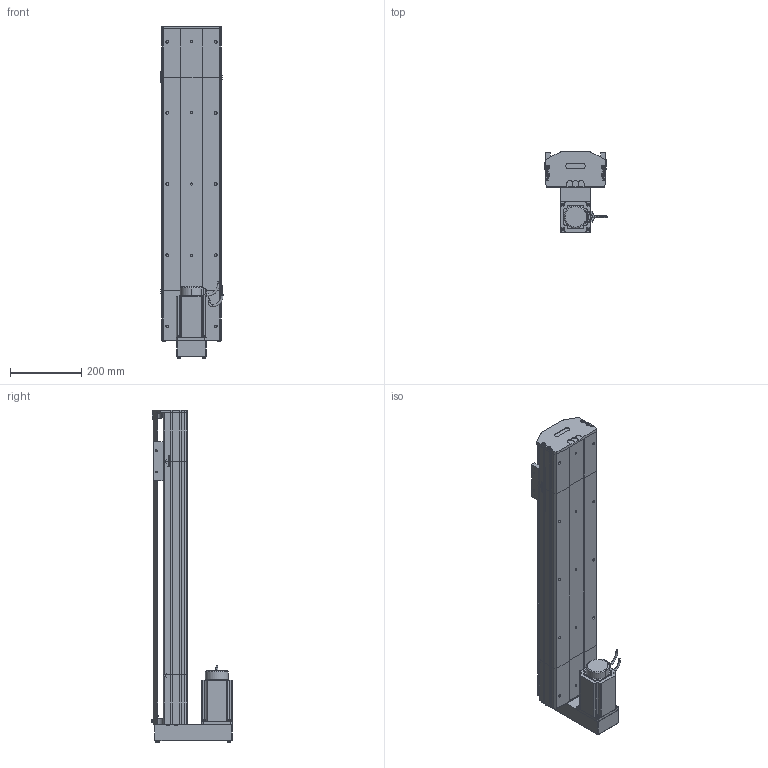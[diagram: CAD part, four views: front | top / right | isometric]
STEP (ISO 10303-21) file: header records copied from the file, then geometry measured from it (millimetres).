
FILE_DESCRIPTION (( 'STEP AP214' ), '1' );
FILE_NAME ('D17 TSN BM S600.STEP', '2010-06-30T07:35:42', ( 'Christophe Gaillard' ), ( 'SGA' ), 'SwSTEP 2.0', 'SolidWorks 2010', '' );
FILE_SCHEMA (( 'AUTOMOTIVE_DESIGN' ));
Length unit declared in the file: millimetre
Products named in the file (33): plaque de  bout tail D17_Default; corpl tail D17_Default; Tail D17_Default; course 600 D17_Default; tete d''axe bas D17; couvercle D17 course L600_Default; corp D17 600_Default; guide D17; arbre + rail D17 Course 600 ; chariot D17 TSN; Cvis M5 L70_Default; vis M5 L12_Default; renvoi Bm_Default; Vis M5 L16-2_Default; Conecteur_Default; Conecteur2_Default; codeur 90BLDC125-640; corps 90BLDC125A-640; avant 90BLDC125A-640; Moteur motionking 90BLDC125A-640; vis M5 L5_Default; couvercle D17_Default; tete d''axe haut D17; Arbre+rail head D17; plaque de  bout BM head D17_Default; Chariot D17 TBN; Arbre+rail tail D17; couvercle D17 head_Default; vis M5 L8 90°_Default; corpl head D17 BM_Default; head BM_Default; vis M5 L25_Default; D17  TSN BM S600
Assembly tree (51 placements, depth 4):
  D17  TSN BM S600
    head BM_Default
      vis M5 L12_Default  x8
      Vis M5 L16-2_Default  x4
      Cvis M5 L70_Default  x2
      vis M5 L5_Default  x2
      renvoi Bm_Default
      Arbre+rail head D17
      corpl head D17 BM_Default
      plaque de  bout BM head D17_Default
      couvercle D17 head_Default
      Moteur motionking 90BLDC125A-640
        codeur 90BLDC125-640
        corps 90BLDC125A-640
        Conecteur2_Default
        Conecteur_Default
        avant 90BLDC125A-640
    chariot D17 TSN
      Chariot D17 TBN
      guide D17  x2
    Tail D17_Default
      couvercle D17_Default
      plaque de  bout tail D17_Default
      vis M5 L12_Default  x4
      vis M5 L8 90°_Default  x2
      vis M5 L25_Default  x2
      Arbre+rail tail D17
      tete d''axe haut D17
      corpl tail D17_Default
      tete d''axe bas D17
    course 600 D17_Default
      corp D17 600_Default
      couvercle D17 course L600_Default
      arbre + rail D17 Course 600 
Bounding box: 174.95 x 225.7 x 932.7 mm (x, y, z)
Volume: 6549103.3 mm3; surface area: 1641838 mm2
Topology: 75 solids, 75 shells, 2117 faces, 5351 edges, 3460 vertices
Faces by surface type: plane 1322, cylinder 534, bspline 136, torus 65, cone 56, sphere 4
Entity records: 70824 total; most frequent: CARTESIAN_POINT 22448, ORIENTED_EDGE 8610, DIRECTION 8034, EDGE_CURVE 4305, LINE 3010, VECTOR 3010, VERTEX_POINT 2826, AXIS2_PLACEMENT_3D 2512
